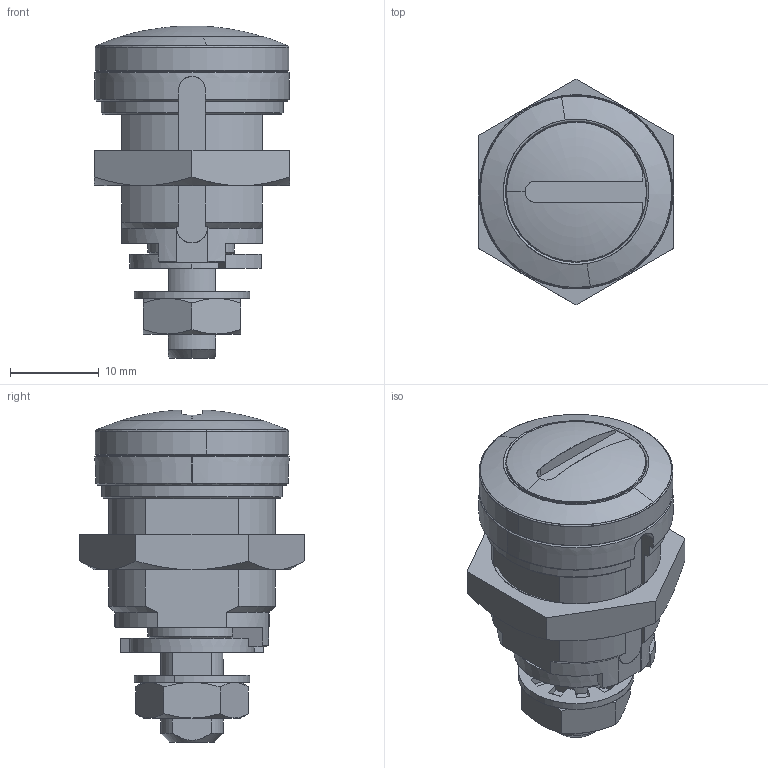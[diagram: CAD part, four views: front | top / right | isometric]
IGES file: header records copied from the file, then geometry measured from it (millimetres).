
Start section: SolidWorks IGES file using analytic representation for surfaces
Bounding box: 22 x 25.4 x 37.37 mm (x, y, z)
Surface area: 4217.2 mm2 (no closed solid volume)
Topology: 0 solids, 0 shells, 211 faces, 2276 edges, 2276 vertices
Faces by surface type: revolution 121, bspline 90
